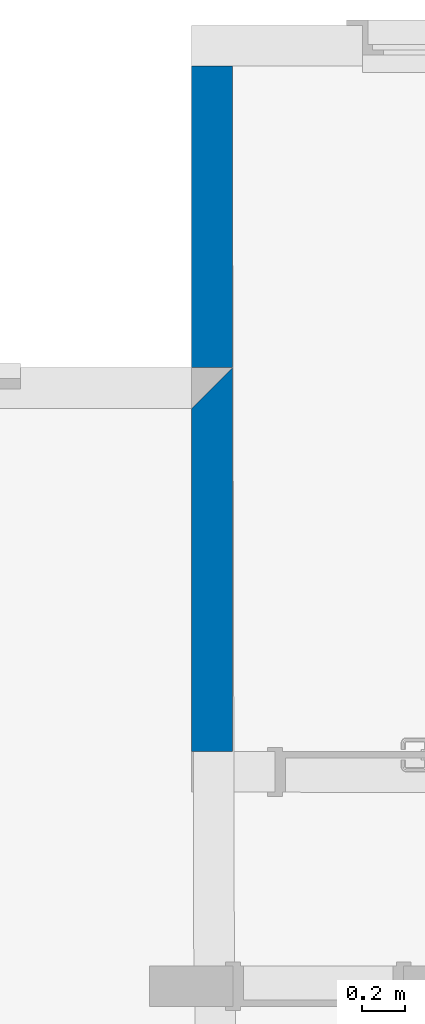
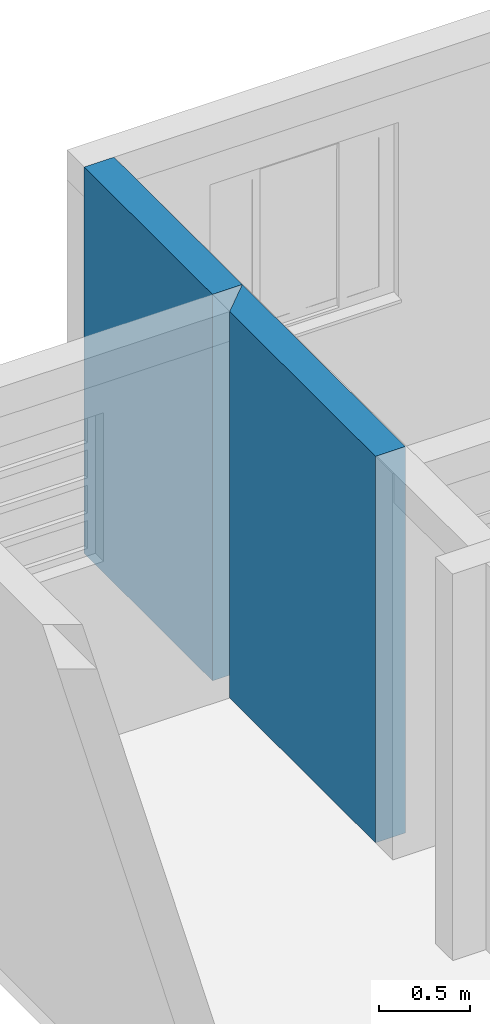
# One storey, part 33 of 43: 2 walls.
"""IFC2X3 building model written with IfcOpenShell, lengths in millimetres."""

from ifc_helpers import new_model, entity, si_unit, converted_unit, derived_unit, money_unit, direction, frame, origin_with_axes, place, context, subcontext, project, spatial, polyline, outline, extrude, material, layer, layer_set, layer_usage, type_object, element, save


model = new_model("IFC2X3")

# Units and contexts
model_context = context("Model", 3, precision=0.01, world=origin_with_axes(), true_north=direction((0.0, 1.0)))
body_context = subcontext(model_context, "Body", "Model", "MODEL_VIEW")
ifc_project = project(units=[si_unit("LENGTHUNIT", "METRE", prefix="MILLI"), si_unit("AREAUNIT", "SQUARE_METRE"), si_unit("VOLUMEUNIT", "CUBIC_METRE"), converted_unit("PLANEANGLEUNIT", "DEGREE", entity("IfcPlaneAngleMeasure", 0.0174532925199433), si_unit("PLANEANGLEUNIT", "RADIAN"), dimensions=[0, 0, 0, 0, 0, 0, 0]), money_unit("USD"), converted_unit("TIMEUNIT", "Year", entity("IfcTimeMeasure", 31557600.0), si_unit("TIMEUNIT", "SECOND"), dimensions=[0, 0, 1, 0, 0, 0, 0]), si_unit("MASSUNIT", "GRAM", prefix="KILO"), si_unit("THERMODYNAMICTEMPERATUREUNIT", "DEGREE_CELSIUS"), si_unit("LUMINOUSINTENSITYUNIT", "LUMEN"), si_unit("ENERGYUNIT", "JOULE", prefix="MEGA"), derived_unit("THERMALCONDUCTANCEUNIT", [(si_unit("POWERUNIT", "WATT"), 1), (si_unit("LENGTHUNIT", "METRE"), -1), (si_unit("THERMODYNAMICTEMPERATUREUNIT", "KELVIN"), -1)]), derived_unit("SPECIFICHEATCAPACITYUNIT", [(si_unit("ENERGYUNIT", "JOULE"), 1), (si_unit("MASSUNIT", "GRAM", prefix="KILO"), -1), (si_unit("THERMODYNAMICTEMPERATUREUNIT", "KELVIN"), -1)]), derived_unit("MASSDENSITYUNIT", [(si_unit("MASSUNIT", "GRAM", prefix="KILO"), 1), (si_unit("VOLUMEUNIT", "CUBIC_METRE"), -1)])], contexts=[model_context])

# Site, building, storey
site_placement = place(None, origin_with_axes())
site = spatial("IfcSite", under=ifc_project, at=site_placement, Name="Local", CompositionType="ELEMENT")
building_placement = place(site_placement, origin_with_axes())
building = spatial("IfcBuilding", under=site, at=building_placement, Name="Construção", CompositionType="ELEMENT")
storey_placement = place(building_placement, origin_with_axes())
storey = spatial("IfcBuildingStorey", under=building, at=storey_placement, Name="Pavimento Tipo", CompositionType="ELEMENT", Elevation=0.0)

# Walls
ifc_material = material(Name="Concreto - Estrutural")
ifc_layer = layer(ifc_material, 190.0, ventilated="UNKNOWN")
ifc_layer_set = layer_set([ifc_layer], Name="Concreto - Estrutural 190")
ifc_layer_usage_1 = layer_usage(ifc_layer_set, "AXIS2", "POSITIVE", -190.0)
wall_type = type_object("IfcWallType", Name="Concreto - Estrutural 190", PredefinedType="NOTDEFINED")
wall_1_placement = place(storey_placement, frame((57514.93001415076, 8845.364932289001, 0.0), z_axis=(0.0, 0.0, 1.0), x_axis=(-1.902976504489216e-05, 0.9999999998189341, 0.0)))
element("IfcWallStandardCase", 1, at=wall_1_placement, inside=storey, type_object=wall_type, material=ifc_layer_usage_1, Name="Apartamento 2 - Parede-078", context=body_context, shape_type="SweptSolid", body=[
    extrude(outline(polyline([(189.9353097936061, -189.9999999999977), (1987.138596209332, -189.9999999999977), (1797.138596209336, 0.0), (190.0000110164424, 0.0), (189.9353097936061, -189.9999999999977)])), origin_with_axes(), (0.0, 0.0, 1.0), 2600.0),
])
ifc_layer_usage_2 = layer_usage(ifc_layer_set, "AXIS2", "POSITIVE", 0.0)
wall_2_placement = place(storey_placement, frame((57704.89219933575, 10832.50714379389, 0.0), z_axis=(0.0, 0.0, 1.0), x_axis=(-1.902976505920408e-05, 0.9999999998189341, 0.0)))
element("IfcWallStandardCase", 2, at=wall_2_placement, inside=storey, type_object=wall_type, material=ifc_layer_usage_2, Name="Apartamento 2 - Parede-004", context=body_context, shape_type="SweptSolid", body=[
    extrude(outline(polyline([(0.0, 0.0), (1412.857809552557, 0.0), (1412.861425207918, 190.0000000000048), (0.0, 190.0000000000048), (0.0, 0.0)])), origin_with_axes(), (0.0, 0.0, 1.0), 2600.0),
])

save(model, "model.ifc")
